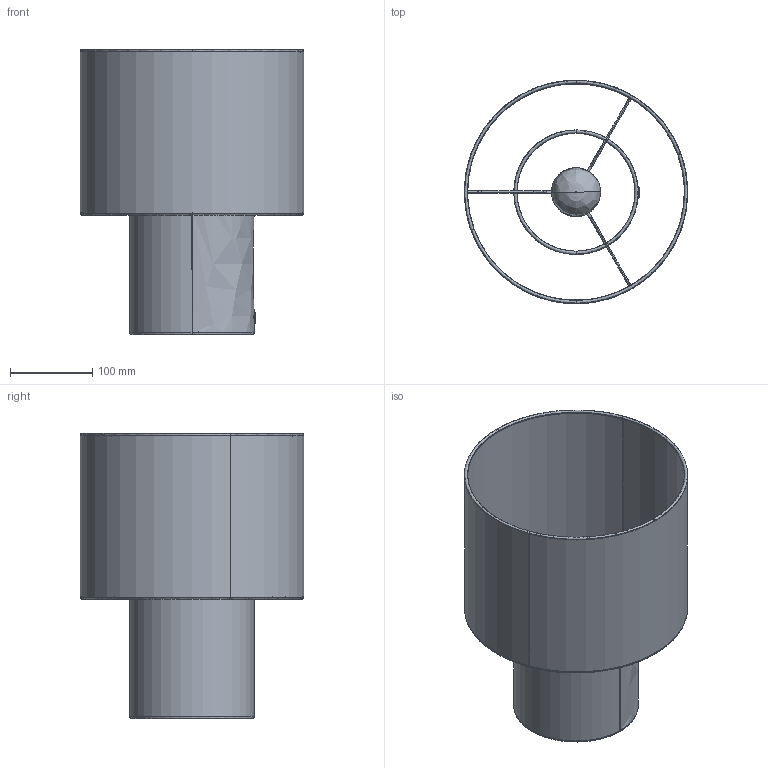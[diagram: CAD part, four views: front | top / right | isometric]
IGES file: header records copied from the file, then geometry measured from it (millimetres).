
Start section: SolidWorks IGES file using analytic representation for surfaces
Global section: file name: C:\Users\anna.bielnik\Desktop\NL2500009982.IGS; native system: SolidWorks 2025; preprocessor: SolidWorks 2025; author: anna.bielnik; date: 260413.121024; units: millimetre
Bounding box: 271 x 271 x 346 mm (x, y, z)
Surface area: 587418.6 mm2 (no closed solid volume)
Topology: 0 solids, 0 shells, 198 faces, 2828 edges, 2826 vertices
Faces by surface type: bspline 114, revolution 84
